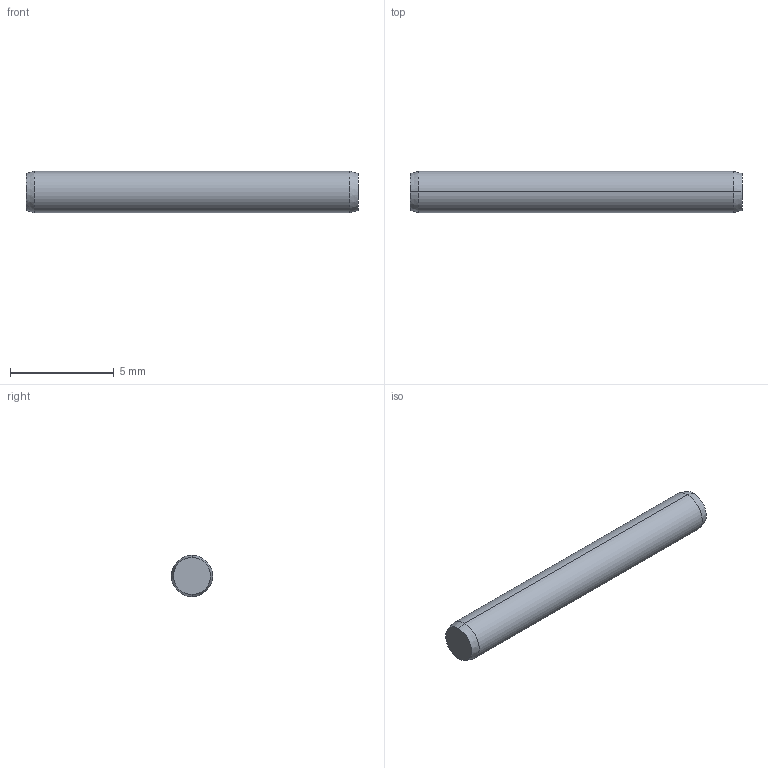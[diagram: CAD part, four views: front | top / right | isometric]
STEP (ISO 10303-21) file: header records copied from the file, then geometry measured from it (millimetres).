
FILE_DESCRIPTION (( 'STEP AP203' ), '1' );
FILE_NAME ('P1206.020-016.step', '2017-06-14T07:57:31', ( 'User' ), ( '' ), 'SwSTEP 2.0', 'SolidWorks 2009', '' );
FILE_SCHEMA (( 'CONFIG_CONTROL_DESIGN' ));
Length unit declared in the file: millimetre
Products named in the file (1): P1206.020-016
Bounding box: 16 x 2 x 2 mm (x, y, z)
Volume: 50 mm3; surface area: 105.4 mm2
Topology: 1 solids, 1 shells, 8 faces, 14 edges, 8 vertices
Faces by surface type: cone 4, cylinder 2, plane 2
Entity records: 271 total; most frequent: DIRECTION 40, CARTESIAN_POINT 31, ORIENTED_EDGE 28, AXIS2_PLACEMENT_3D 17, EDGE_CURVE 14, PERSON_AND_ORGANIZATION 8, CIRCLE 8, FACE_OUTER_BOUND 8
